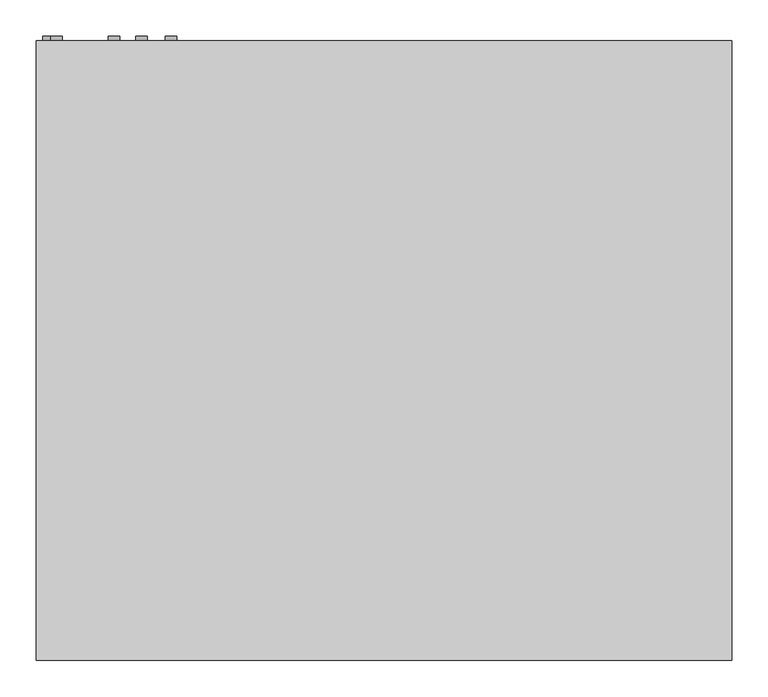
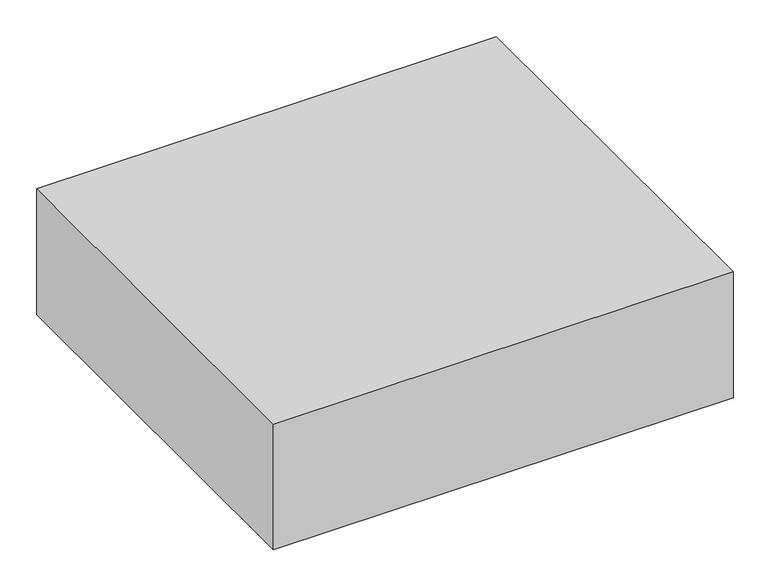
"""IFC4 building model written with IfcOpenShell, lengths in millimetres: proxy geometry, Exposed_Horizontal_Fan_Coil_Unit_-_42CGB_-_CARRIER_-_4-Pipe_BS-BR_LH_2022 : Size 02 - 277v/60Hz/1Ph - 4/1 Coil."""

from ifc_helpers import new_model, si_unit, point, frame, frame_2d, origin, place, context, project, spatial, polyline, circle_curve, trimmed, segment, composite_curve, outline, extrude, source, transform, mapped, element, save


def mechanical_equipment_5cce3134(model_context):
    return source(origin(), model_context, "Body", "SweptSolid", [
        extrude(outline(polyline([(369.8875, -439.7375), (369.8875, -585.7875), (-65.0875, -585.7875), (-65.0875, -439.7375), (369.8875, -439.7375)])), frame((0.0, 0.0, -285.75), z_axis=(0.0, 0.0, 1.0), x_axis=(1.0, 0.0, 0.0)), (0.0, 0.0, 1.0), 6.35),
        extrude(outline(composite_curve([segment(trimmed(circle_curve(frame_2d((-261.434158, -311.3546393)), 9.525), [point((-261.434158, -301.8296393))], [point((-261.434158, -320.8796393))], False, "CARTESIAN"), True, "CONTINUOUS"), segment(trimmed(circle_curve(frame_2d((-261.434158, -311.3546393)), 9.525), [point((-261.434158, -320.8796393))], [point((-261.434158, -301.8296393))], False, "CARTESIAN"), True, "CONTINUOUS")], self_intersect=False)), frame((0.0, 192.0875, 0.0), z_axis=(0.0, 1.0, 0.0), x_axis=(0.0, 0.0, 1.0)), (0.0, 0.0, 1.0), 6.35),
        extrude(outline(composite_curve([segment(trimmed(circle_curve(frame_2d((-85.725, -301.625)), 7.9375), [point((-85.725, -293.6875))], [point((-85.725, -309.5625))], False, "CARTESIAN"), True, "CONTINUOUS"), segment(trimmed(circle_curve(frame_2d((-85.725, -301.625)), 7.9375), [point((-85.725, -309.5625))], [point((-85.725, -293.6875))], False, "CARTESIAN"), True, "CONTINUOUS")], self_intersect=False)), frame((0.0, 192.0875, 0.0), z_axis=(0.0, 1.0, 0.0), x_axis=(0.0, 0.0, 1.0)), (0.0, 0.0, 1.0), 6.35),
        extrude(outline(composite_curve([segment(trimmed(circle_curve(frame_2d((-44.45, -222.25)), 7.9375), [point((-44.45, -214.3125))], [point((-44.45, -230.1875))], False, "CARTESIAN"), True, "CONTINUOUS"), segment(trimmed(circle_curve(frame_2d((-44.45, -222.25)), 7.9375), [point((-44.45, -230.1875))], [point((-44.45, -214.3125))], False, "CARTESIAN"), True, "CONTINUOUS")], self_intersect=False)), frame((0.0, 192.0875, 0.0), z_axis=(0.0, 1.0, 0.0), x_axis=(0.0, 0.0, 1.0)), (0.0, 0.0, 1.0), 6.35),
        extrude(outline(composite_curve([segment(trimmed(circle_curve(frame_2d((-95.25, -184.15)), 7.9375), [point((-95.25, -176.2125))], [point((-95.25, -192.0875))], False, "CARTESIAN"), True, "CONTINUOUS"), segment(trimmed(circle_curve(frame_2d((-95.25, -184.15)), 7.9375), [point((-95.25, -192.0875))], [point((-95.25, -176.2125))], False, "CARTESIAN"), True, "CONTINUOUS")], self_intersect=False)), frame((0.0, 192.0875, 0.0), z_axis=(0.0, 1.0, 0.0), x_axis=(0.0, 0.0, 1.0)), (0.0, 0.0, 1.0), 6.35),
        extrude(outline(composite_curve([segment(trimmed(circle_curve(frame_2d((-60.325, -142.875)), 7.9375), [point((-60.325, -134.9375))], [point((-60.325, -150.8125))], False, "CARTESIAN"), True, "CONTINUOUS"), segment(trimmed(circle_curve(frame_2d((-60.325, -142.875)), 7.9375), [point((-60.325, -150.8125))], [point((-60.325, -134.9375))], False, "CARTESIAN"), True, "CONTINUOUS")], self_intersect=False)), frame((0.0, 192.0875, 0.0), z_axis=(0.0, 1.0, 0.0), x_axis=(0.0, 0.0, 1.0)), (0.0, 0.0, 1.0), 6.35),
        extrude(outline(polyline([(-330.2, 192.0875), (635.0, 192.0875), (635.0, -668.3375), (-330.2, -668.3375), (-330.2, 192.0875)])), frame((0.0, 0.0, -279.4), z_axis=(0.0, 0.0, 1.0), x_axis=(1.0, 0.0, 0.0)), (0.0, 0.0, 1.0), 279.4),
        extrude(outline(polyline([(450.85, 115.8875), (450.85, -138.1125), (-146.05, -138.1125), (-146.05, 115.8875), (450.85, 115.8875)])), frame((0.0, 0.0, -285.75), z_axis=(0.0, 0.0, 1.0), x_axis=(1.0, 0.0, 0.0)), (0.0, 0.0, 1.0), 6.35),
    ])


if __name__ == "__main__":
    model = new_model("IFC4")
    model_context = context("Model", 3, world=origin())
    ifc_project = project(units=[si_unit("LENGTHUNIT", "METRE", prefix="MILLI")], contexts=[model_context])
    site = spatial("IfcSite", under=ifc_project)
    building = spatial("IfcBuilding", under=site)
    placement = place(None, origin())
    mechanical_equipment_shape = mechanical_equipment_5cce3134(model_context)
    element("IfcBuildingElementProxy", 1, Name="Exposed_Horizontal_Fan_Coil_Unit_-_42CGB_-_CARRIER_-_4-Pipe_BS-BR_LH_2022 : Size 02 - 277v/60Hz/1Ph - 4/1 Coil", ObjectType="Exposed_Horizontal_Fan_Coil_Unit_-_42CGB_-_CARRIER_-_4-Pipe_BS-BR_LH_2022 : Size 02 - 277v/60Hz/1Ph - 4/1 Coil", at=placement, inside=building, context=model_context, shape_type="MappedRepresentation", body=[
        mapped(mechanical_equipment_shape, transform((0.0, 0.0, 0.0), x_axis=(1.0, 0.0, 0.0), y_axis=(0.0, 1.0, 0.0), z_axis=(0.0, 0.0, 1.0))),
    ])
    save(model, "model.ifc")
